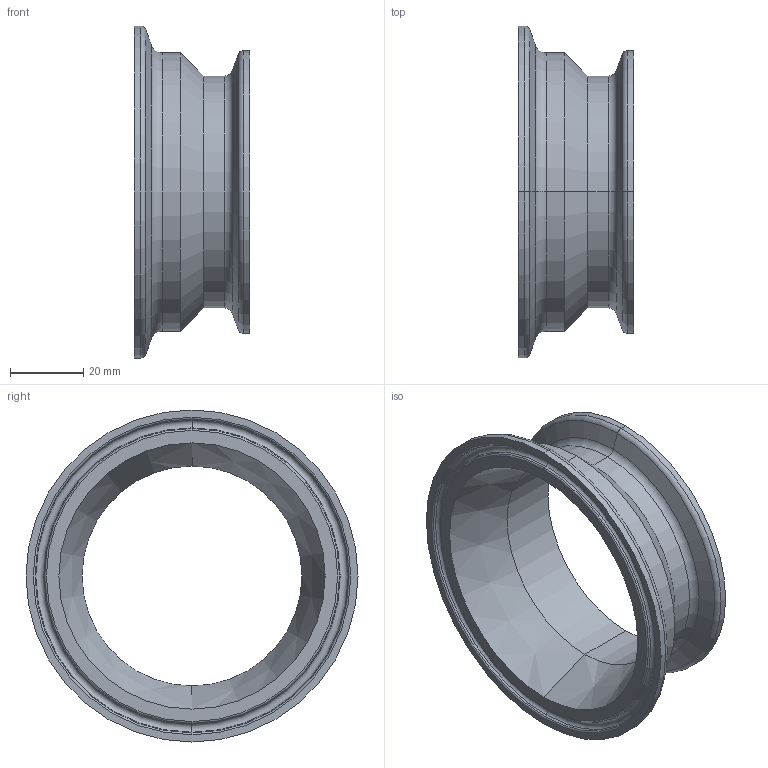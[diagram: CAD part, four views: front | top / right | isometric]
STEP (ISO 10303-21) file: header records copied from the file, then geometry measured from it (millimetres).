
FILE_DESCRIPTION (( 'STEP AP203' ), '1' );
FILE_NAME ('TEG31I6L3.0X2.5.STEP', '2021-10-14T18:09:12', ( '' ), ( '' ), 'SwSTEP 2.0', 'SolidWorks 2021', '' );
FILE_SCHEMA (( 'CONFIG_CONTROL_DESIGN' ));
Length unit declared in the file: inch
Products named in the file (1): TEG31I6L3.0X2.5
Bounding box: 31.75 x 90.91 x 90.91 mm (x, y, z)
Volume: 34771.4 mm3; surface area: 21544.5 mm2
Topology: 1 solids, 1 shells, 46 faces, 92 edges, 50 vertices
Faces by surface type: cone 16, torus 16, cylinder 10, plane 4
Entity records: 1273 total; most frequent: DIRECTION 252, CARTESIAN_POINT 189, ORIENTED_EDGE 184, AXIS2_PLACEMENT_3D 113, EDGE_CURVE 92, CIRCLE 66, EDGE_LOOP 50, VERTEX_POINT 50
